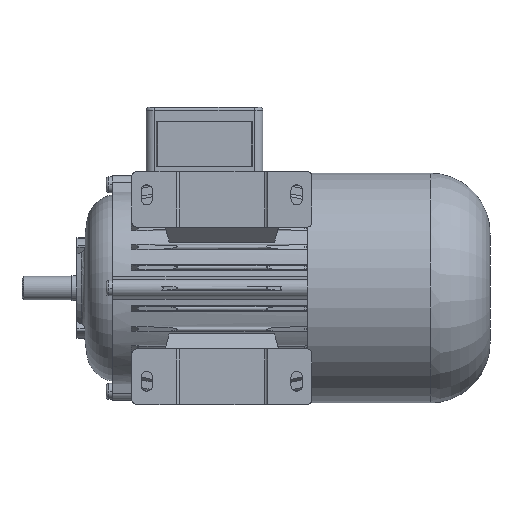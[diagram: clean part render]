
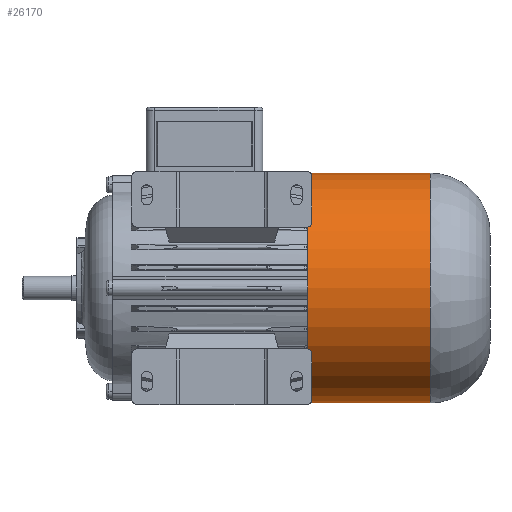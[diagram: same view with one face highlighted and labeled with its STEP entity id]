
A CAD part, front view. The second image highlights one B-rep face of the part: STEP entity #26170.
In plain terms, the highlighted cylindrical face has radius 69 mm (diameter 138 mm), a partial arc.
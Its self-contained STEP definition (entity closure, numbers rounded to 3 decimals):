
#17780=CARTESIAN_POINT('',(-1457.334,-470.685,110.8));
#17790=DIRECTION('',(0.,0.,-1.));
#17800=DIRECTION('',(-1.,0.,0.));
#17810=AXIS2_PLACEMENT_3D('',#17780,#17790,#17800);
#17820=CIRCLE('',#17810,69.);
#17830=CARTESIAN_POINT('',(-1388.334,-470.685,110.8));
#17840=VERTEX_POINT('',#17830);
#17850=CARTESIAN_POINT('',(-1526.334,-470.685,110.8));
#17860=VERTEX_POINT('',#17850);
#17890=EDGE_CURVE('',#17860,#17840,#17820,.T.);
#25860=CARTESIAN_POINT('',(-1457.334,-470.685,110.8));
#25870=DIRECTION('',(0.,0.,-1.));
#25880=DIRECTION('',(-1.,0.,0.));
#25890=AXIS2_PLACEMENT_3D('',#25860,#25870,#25880);
#25900=CYLINDRICAL_SURFACE('',#25890,69.);
#25910=CARTESIAN_POINT('',(-1388.334,-470.685,110.8));
#25920=DIRECTION('',(0.,0.,-1.));
#25930=VECTOR('',#25920,1.);
#25940=LINE('',#25910,#25930);
#25950=CARTESIAN_POINT('',(-1388.334,-470.685,184.3));
#25960=VERTEX_POINT('',#25950);
#25970=EDGE_CURVE('',#25960,#17840,#25940,.T.);
#25980=ORIENTED_EDGE('',*,*,#25970,.T.);
#25990=CARTESIAN_POINT('',(-1457.334,-470.685,184.3));
#26000=DIRECTION('',(0.,0.,-1.));
#26010=DIRECTION('',(-1.,0.,0.));
#26020=AXIS2_PLACEMENT_3D('',#25990,#26000,#26010);
#26030=CIRCLE('',#26020,69.);
#26040=CARTESIAN_POINT('',(-1526.334,-470.685,184.3));
#26050=VERTEX_POINT('',#26040);
#26060=EDGE_CURVE('',#26050,#25960,#26030,.T.);
#26070=ORIENTED_EDGE('',*,*,#26060,.T.);
#26080=CARTESIAN_POINT('',(-1526.334,-470.685,110.8));
#26090=DIRECTION('',(0.,0.,-1.));
#26100=VECTOR('',#26090,1.);
#26110=LINE('',#26080,#26100);
#26120=EDGE_CURVE('',#26050,#17860,#26110,.T.);
#26130=ORIENTED_EDGE('',*,*,#26120,.F.);
#26140=ORIENTED_EDGE('',*,*,#17890,.F.);
#26150=EDGE_LOOP('',(#26140,#26130,#26070,#25980));
#26160=FACE_OUTER_BOUND('',#26150,.T.);
#26170=ADVANCED_FACE('',(#26160),#25900,.T.);
